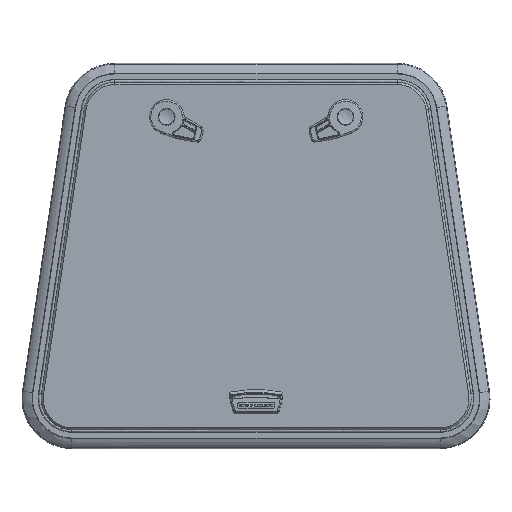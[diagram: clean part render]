
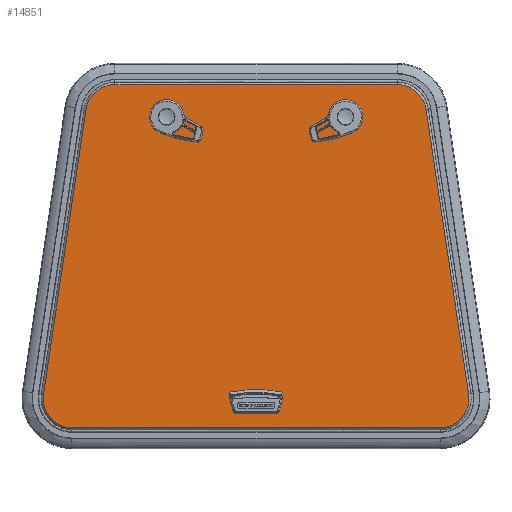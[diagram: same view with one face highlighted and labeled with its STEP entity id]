
A CAD part, top view. The second image highlights one B-rep face of the part: STEP entity #14851.
In plain terms, the highlighted planar face has unit normal (0, 0, 1) as drawn and (0, 1, 0) by its records, which use the part's own axes.
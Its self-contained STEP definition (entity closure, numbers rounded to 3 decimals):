
#13932=CARTESIAN_POINT('',(205.15,10.,207.));
#13933=DIRECTION('',(0.,1.,0.));
#13934=DIRECTION('',(0.,0.,1.));
#13935=AXIS2_PLACEMENT_3D('',#13932,#13933,#13934);
#13937=DIRECTION('',(1.,0.,0.));
#13938=VECTOR('',#13937,410.3);
#13939=CARTESIAN_POINT('',(-205.15,10.,249.5));
#13940=LINE('',#13939,#13938);
#13941=CARTESIAN_POINT('',(-205.15,10.,207.));
#13942=DIRECTION('',(0.,1.,0.));
#13943=DIRECTION('',(-0.989,0.,0.148));
#13944=AXIS2_PLACEMENT_3D('',#13941,#13942,#13943);
#13946=DIRECTION('',(0.148,0.,0.989));
#13947=VECTOR('',#13946,418.609);
#13948=CARTESIAN_POINT('',(-309.132,10.,-200.71));
#13949=LINE('',#13948,#13947);
#13950=CARTESIAN_POINT('',(-267.1,10.,-207.));
#13951=DIRECTION('',(0.,1.,0.));
#13952=DIRECTION('',(0.,0.,-1.));
#13953=AXIS2_PLACEMENT_3D('',#13950,#13951,#13952);
#13955=DIRECTION('',(-1.,0.,0.));
#13956=VECTOR('',#13955,534.2);
#13957=CARTESIAN_POINT('',(267.1,10.,-249.5));
#13958=LINE('',#13957,#13956);
#13959=CARTESIAN_POINT('',(267.1,10.,-207.));
#13960=DIRECTION('',(0.,1.,0.));
#13961=DIRECTION('',(0.989,0.,0.148));
#13962=AXIS2_PLACEMENT_3D('',#13959,#13960,#13961);
#13964=DIRECTION('',(0.148,0.,-0.989));
#13965=VECTOR('',#13964,418.609);
#13966=CARTESIAN_POINT('',(247.182,10.,213.29));
#13967=LINE('',#13966,#13965);
#13968=CARTESIAN_POINT('',(-134.802,10.,199.383));
#13969=DIRECTION('',(0.,1.,0.));
#13970=DIRECTION('',(-0.5,0.,-0.866));
#13971=AXIS2_PLACEMENT_3D('',#13968,#13969,#13970);
#13973=DIRECTION('',(0.5,0.,0.866));
#13974=VECTOR('',#13973,10.2);
#13975=CARTESIAN_POINT('',(-139.132,10.,201.883));
#13976=LINE('',#13975,#13974);
#13977=CARTESIAN_POINT('',(-129.702,10.,208.217));
#13978=DIRECTION('',(0.,1.,0.));
#13979=DIRECTION('',(-0.866,0.,0.5));
#13980=AXIS2_PLACEMENT_3D('',#13977,#13978,#13979);
#13982=DIRECTION('',(0.866,0.,-0.5));
#13983=VECTOR('',#13982,5.2);
#13984=CARTESIAN_POINT('',(-127.202,10.,212.547));
#13985=LINE('',#13984,#13983);
#13986=CARTESIAN_POINT('',(-125.198,10.,205.617));
#13987=DIRECTION('',(0.,1.,0.));
#13988=DIRECTION('',(0.5,0.,0.866));
#13989=AXIS2_PLACEMENT_3D('',#13986,#13987,#13988);
#13991=DIRECTION('',(-0.5,0.,-0.866));
#13992=VECTOR('',#13991,10.2);
#13993=CARTESIAN_POINT('',(-120.868,10.,203.117));
#13994=LINE('',#13993,#13992);
#13995=CARTESIAN_POINT('',(-130.298,10.,196.783));
#13996=DIRECTION('',(0.,1.,0.));
#13997=DIRECTION('',(0.866,0.,-0.5));
#13998=AXIS2_PLACEMENT_3D('',#13995,#13996,#13997);
#14000=DIRECTION('',(-0.866,0.,0.5));
#14001=VECTOR('',#14000,5.2);
#14002=CARTESIAN_POINT('',(-132.798,10.,192.453));
#14003=LINE('',#14002,#14001);
#14004=CARTESIAN_POINT('',(134.802,10.,199.383));
#14005=DIRECTION('',(0.,-1.,0.));
#14006=DIRECTION('',(0.5,0.,-0.866));
#14007=AXIS2_PLACEMENT_3D('',#14004,#14005,#14006);
#14009=DIRECTION('',(0.866,0.,0.5));
#14010=VECTOR('',#14009,5.2);
#14011=CARTESIAN_POINT('',(132.798,10.,192.453));
#14012=LINE('',#14011,#14010);
#14013=CARTESIAN_POINT('',(130.298,10.,196.783));
#14014=DIRECTION('',(0.,-1.,0.));
#14015=DIRECTION('',(-0.866,0.,-0.5));
#14016=AXIS2_PLACEMENT_3D('',#14013,#14014,#14015);
#14018=DIRECTION('',(0.5,0.,-0.866));
#14019=VECTOR('',#14018,10.2);
#14020=CARTESIAN_POINT('',(120.868,10.,203.117));
#14021=LINE('',#14020,#14019);
#14022=CARTESIAN_POINT('',(125.198,10.,205.617));
#14023=DIRECTION('',(0.,-1.,0.));
#14024=DIRECTION('',(-0.5,0.,0.866));
#14025=AXIS2_PLACEMENT_3D('',#14022,#14023,#14024);
#14027=DIRECTION('',(-0.866,0.,-0.5));
#14028=VECTOR('',#14027,5.2);
#14029=CARTESIAN_POINT('',(127.202,10.,212.547));
#14030=LINE('',#14029,#14028);
#14031=CARTESIAN_POINT('',(129.702,10.,208.217));
#14032=DIRECTION('',(0.,-1.,0.));
#14033=DIRECTION('',(0.866,0.,0.5));
#14034=AXIS2_PLACEMENT_3D('',#14031,#14032,#14033);
#14036=DIRECTION('',(-0.5,0.,0.866));
#14037=VECTOR('',#14036,10.2);
#14038=CARTESIAN_POINT('',(139.132,10.,201.883));
#14039=LINE('',#14038,#14037);
#14040=CARTESIAN_POINT('',(-21.55,10.,-216.));
#14041=DIRECTION('',(0.,1.,0.));
#14042=DIRECTION('',(0.,0.,-1.));
#14043=AXIS2_PLACEMENT_3D('',#14040,#14041,#14042);
#14045=DIRECTION('',(1.,0.,0.));
#14046=VECTOR('',#14045,43.1);
#14047=CARTESIAN_POINT('',(-21.55,10.,-210.5));
#14048=LINE('',#14047,#14046);
#14049=CARTESIAN_POINT('',(21.55,10.,-216.));
#14050=DIRECTION('',(0.,1.,0.));
#14051=DIRECTION('',(0.,0.,1.));
#14052=AXIS2_PLACEMENT_3D('',#14049,#14050,#14051);
#14054=DIRECTION('',(-1.,0.,0.));
#14055=VECTOR('',#14054,43.1);
#14056=CARTESIAN_POINT('',(21.55,10.,-221.5));
#14057=LINE('',#14056,#14055);
#14306=CARTESIAN_POINT('',(205.15,10.,249.5));
#14307=CARTESIAN_POINT('',(247.182,10.,213.29));
#14308=VERTEX_POINT('',#14306);
#14309=VERTEX_POINT('',#14307);
#14310=CARTESIAN_POINT('',(309.132,10.,-200.71));
#14311=VERTEX_POINT('',#14310);
#14312=CARTESIAN_POINT('',(267.1,10.,-249.5));
#14313=VERTEX_POINT('',#14312);
#14314=CARTESIAN_POINT('',(-267.1,10.,-249.5));
#14315=VERTEX_POINT('',#14314);
#14316=CARTESIAN_POINT('',(-309.132,10.,-200.71));
#14317=VERTEX_POINT('',#14316);
#14318=CARTESIAN_POINT('',(-247.182,10.,213.29));
#14319=VERTEX_POINT('',#14318);
#14320=CARTESIAN_POINT('',(-205.15,10.,249.5));
#14321=VERTEX_POINT('',#14320);
#14354=CARTESIAN_POINT('',(-137.302,10.,195.053));
#14355=CARTESIAN_POINT('',(-139.132,10.,201.883));
#14356=VERTEX_POINT('',#14354);
#14357=VERTEX_POINT('',#14355);
#14358=CARTESIAN_POINT('',(-134.032,10.,210.717));
#14359=VERTEX_POINT('',#14358);
#14360=CARTESIAN_POINT('',(-127.202,10.,212.547));
#14361=VERTEX_POINT('',#14360);
#14362=CARTESIAN_POINT('',(-122.698,10.,209.947));
#14363=VERTEX_POINT('',#14362);
#14364=CARTESIAN_POINT('',(-120.868,10.,203.117));
#14365=VERTEX_POINT('',#14364);
#14366=CARTESIAN_POINT('',(-125.968,10.,194.283));
#14367=VERTEX_POINT('',#14366);
#14368=CARTESIAN_POINT('',(-132.798,10.,192.453));
#14369=VERTEX_POINT('',#14368);
#14386=CARTESIAN_POINT('',(137.302,10.,195.053));
#14387=CARTESIAN_POINT('',(139.132,10.,201.883));
#14388=VERTEX_POINT('',#14386);
#14389=VERTEX_POINT('',#14387);
#14390=CARTESIAN_POINT('',(134.032,10.,210.717));
#14391=VERTEX_POINT('',#14390);
#14392=CARTESIAN_POINT('',(127.202,10.,212.547));
#14393=VERTEX_POINT('',#14392);
#14394=CARTESIAN_POINT('',(122.698,10.,209.947));
#14395=VERTEX_POINT('',#14394);
#14396=CARTESIAN_POINT('',(120.868,10.,203.117));
#14397=VERTEX_POINT('',#14396);
#14398=CARTESIAN_POINT('',(125.968,10.,194.283));
#14399=VERTEX_POINT('',#14398);
#14400=CARTESIAN_POINT('',(132.798,10.,192.453));
#14401=VERTEX_POINT('',#14400);
#14410=CARTESIAN_POINT('',(-21.55,10.,-221.5));
#14411=CARTESIAN_POINT('',(-21.55,10.,-210.5));
#14412=VERTEX_POINT('',#14410);
#14413=VERTEX_POINT('',#14411);
#14414=CARTESIAN_POINT('',(21.55,10.,-210.5));
#14415=VERTEX_POINT('',#14414);
#14416=CARTESIAN_POINT('',(21.55,10.,-221.5));
#14417=VERTEX_POINT('',#14416);
#14783=CARTESIAN_POINT('',(0.,10.,0.));
#14784=DIRECTION('',(0.,1.,0.));
#14785=DIRECTION('',(1.,0.,0.));
#14786=AXIS2_PLACEMENT_3D('',#14783,#14784,#14785);
#14787=PLANE('',#14786);
#14789=ORIENTED_EDGE('',*,*,#14788,.F.);
#14791=ORIENTED_EDGE('',*,*,#14790,.F.);
#14793=ORIENTED_EDGE('',*,*,#14792,.F.);
#14795=ORIENTED_EDGE('',*,*,#14794,.F.);
#14797=ORIENTED_EDGE('',*,*,#14796,.F.);
#14799=ORIENTED_EDGE('',*,*,#14798,.F.);
#14801=ORIENTED_EDGE('',*,*,#14800,.F.);
#14802=ORIENTED_EDGE('',*,*,#14773,.F.);
#14803=EDGE_LOOP('',(#14789,#14791,#14793,#14795,#14797,#14799,#14801,#14802));
#14804=FACE_OUTER_BOUND('',#14803,.F.);
#14806=ORIENTED_EDGE('',*,*,#14805,.T.);
#14808=ORIENTED_EDGE('',*,*,#14807,.T.);
#14810=ORIENTED_EDGE('',*,*,#14809,.T.);
#14812=ORIENTED_EDGE('',*,*,#14811,.T.);
#14814=ORIENTED_EDGE('',*,*,#14813,.T.);
#14816=ORIENTED_EDGE('',*,*,#14815,.T.);
#14818=ORIENTED_EDGE('',*,*,#14817,.T.);
#14820=ORIENTED_EDGE('',*,*,#14819,.T.);
#14821=EDGE_LOOP('',(#14806,#14808,#14810,#14812,#14814,#14816,#14818,#14820));
#14822=FACE_BOUND('',#14821,.F.);
#14824=ORIENTED_EDGE('',*,*,#14823,.F.);
#14826=ORIENTED_EDGE('',*,*,#14825,.F.);
#14828=ORIENTED_EDGE('',*,*,#14827,.F.);
#14830=ORIENTED_EDGE('',*,*,#14829,.F.);
#14832=ORIENTED_EDGE('',*,*,#14831,.F.);
#14834=ORIENTED_EDGE('',*,*,#14833,.F.);
#14836=ORIENTED_EDGE('',*,*,#14835,.F.);
#14838=ORIENTED_EDGE('',*,*,#14837,.F.);
#14839=EDGE_LOOP('',(#14824,#14826,#14828,#14830,#14832,#14834,#14836,#14838));
#14840=FACE_BOUND('',#14839,.F.);
#14842=ORIENTED_EDGE('',*,*,#14841,.T.);
#14844=ORIENTED_EDGE('',*,*,#14843,.T.);
#14846=ORIENTED_EDGE('',*,*,#14845,.T.);
#14848=ORIENTED_EDGE('',*,*,#14847,.T.);
#14849=EDGE_LOOP('',(#14842,#14844,#14846,#14848));
#14850=FACE_BOUND('',#14849,.F.);
#14851=ADVANCED_FACE('',(#14804,#14822,#14840,#14850),#14787,.T.);
#13936=CIRCLE('',#13935,42.5);
#13945=CIRCLE('',#13944,42.5);
#13954=CIRCLE('',#13953,42.5);
#13963=CIRCLE('',#13962,42.5);
#13972=CIRCLE('',#13971,5.);
#13981=CIRCLE('',#13980,5.);
#13990=CIRCLE('',#13989,5.);
#13999=CIRCLE('',#13998,5.);
#14008=CIRCLE('',#14007,5.);
#14017=CIRCLE('',#14016,5.);
#14026=CIRCLE('',#14025,5.);
#14035=CIRCLE('',#14034,5.);
#14044=CIRCLE('',#14043,5.5);
#14053=CIRCLE('',#14052,5.5);
#14773=EDGE_CURVE('',#14309,#14311,#13967,.T.);
#14788=EDGE_CURVE('',#14308,#14309,#13936,.T.);
#14790=EDGE_CURVE('',#14321,#14308,#13940,.T.);
#14792=EDGE_CURVE('',#14319,#14321,#13945,.T.);
#14794=EDGE_CURVE('',#14317,#14319,#13949,.T.);
#14796=EDGE_CURVE('',#14315,#14317,#13954,.T.);
#14798=EDGE_CURVE('',#14313,#14315,#13958,.T.);
#14800=EDGE_CURVE('',#14311,#14313,#13963,.T.);
#14805=EDGE_CURVE('',#14356,#14357,#13972,.T.);
#14807=EDGE_CURVE('',#14357,#14359,#13976,.T.);
#14809=EDGE_CURVE('',#14359,#14361,#13981,.T.);
#14811=EDGE_CURVE('',#14361,#14363,#13985,.T.);
#14813=EDGE_CURVE('',#14363,#14365,#13990,.T.);
#14815=EDGE_CURVE('',#14365,#14367,#13994,.T.);
#14817=EDGE_CURVE('',#14367,#14369,#13999,.T.);
#14819=EDGE_CURVE('',#14369,#14356,#14003,.T.);
#14823=EDGE_CURVE('',#14388,#14389,#14008,.T.);
#14825=EDGE_CURVE('',#14401,#14388,#14012,.T.);
#14827=EDGE_CURVE('',#14399,#14401,#14017,.T.);
#14829=EDGE_CURVE('',#14397,#14399,#14021,.T.);
#14831=EDGE_CURVE('',#14395,#14397,#14026,.T.);
#14833=EDGE_CURVE('',#14393,#14395,#14030,.T.);
#14835=EDGE_CURVE('',#14391,#14393,#14035,.T.);
#14837=EDGE_CURVE('',#14389,#14391,#14039,.T.);
#14841=EDGE_CURVE('',#14412,#14413,#14044,.T.);
#14843=EDGE_CURVE('',#14413,#14415,#14048,.T.);
#14845=EDGE_CURVE('',#14415,#14417,#14053,.T.);
#14847=EDGE_CURVE('',#14417,#14412,#14057,.T.);
